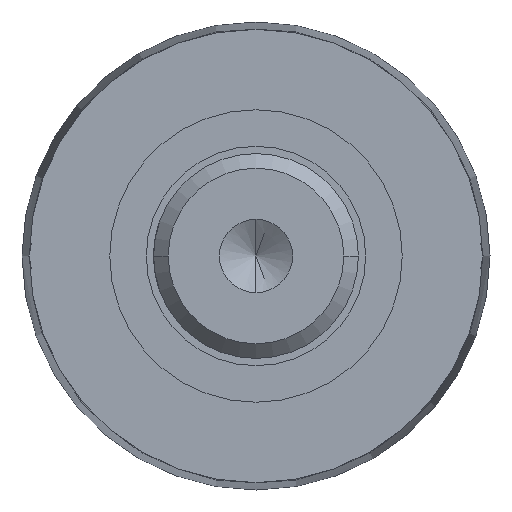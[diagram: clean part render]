
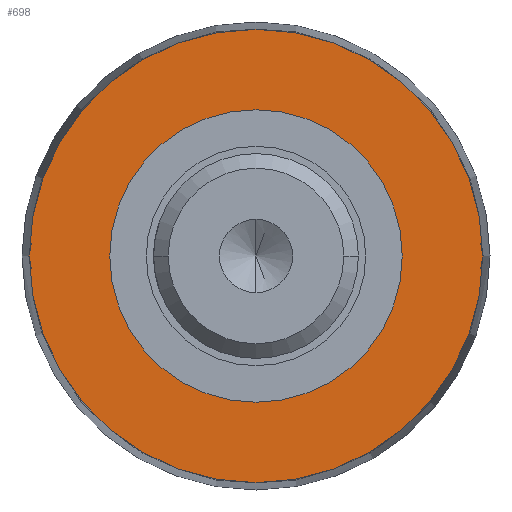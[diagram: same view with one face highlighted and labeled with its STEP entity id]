
A CAD part, left-side view. The second image highlights one B-rep face of the part: STEP entity #698.
In plain terms, the highlighted planar face has unit normal (-1, 0, 0).
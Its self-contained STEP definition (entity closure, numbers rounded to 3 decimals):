
#23 = CARTESIAN_POINT ( 'NONE',  ( -210., -10., 0. ) ) ;
#33 = ORIENTED_EDGE ( 'NONE', *, *, #112, .F. ) ;
#103 = DIRECTION ( 'NONE',  ( 0., 1., 0. ) ) ;
#108 = EDGE_LOOP ( 'NONE', ( #671, #682 ) ) ;
#112 = EDGE_CURVE ( 'NONE', #532, #758, #289, .T. ) ;
#128 = DIRECTION ( 'NONE',  ( 0., 1., 0. ) ) ;
#132 = DIRECTION ( 'NONE',  ( 0., 1., 0. ) ) ;
#199 = CARTESIAN_POINT ( 'NONE',  ( -210., 0., 0. ) ) ;
#228 = FACE_OUTER_BOUND ( 'NONE', #534, .T. ) ;
#233 = EDGE_CURVE ( 'NONE', #758, #532, #404, .T. ) ;
#289 = CIRCLE ( 'NONE', #554, 15.5 ) ;
#319 = CARTESIAN_POINT ( 'NONE',  ( -210., 0., 0. ) ) ;
#370 = CIRCLE ( 'NONE', #981, 10. ) ;
#404 = CIRCLE ( 'NONE', #618, 15.5 ) ;
#441 = CARTESIAN_POINT ( 'NONE',  ( -210., 0., 0. ) ) ;
#459 = AXIS2_PLACEMENT_3D ( 'NONE', #748, #480, #888 ) ;
#480 = DIRECTION ( 'NONE',  ( -1., 0., 0. ) ) ;
#500 = VERTEX_POINT ( 'NONE', #1034 ) ;
#515 = VERTEX_POINT ( 'NONE', #23 ) ;
#532 = VERTEX_POINT ( 'NONE', #589 ) ;
#534 = EDGE_LOOP ( 'NONE', ( #1009, #33 ) ) ;
#538 = DIRECTION ( 'NONE',  ( 0., 1., 0. ) ) ;
#541 = CIRCLE ( 'NONE', #657, 10. ) ;
#554 = AXIS2_PLACEMENT_3D ( 'NONE', #908, #812, #132 ) ;
#582 = PLANE ( 'NONE',  #459 ) ;
#589 = CARTESIAN_POINT ( 'NONE',  ( -210., -15.5, 0. ) ) ;
#601 = CARTESIAN_POINT ( 'NONE',  ( -210., 15.5, 0. ) ) ;
#618 = AXIS2_PLACEMENT_3D ( 'NONE', #199, #783, #103 ) ;
#657 = AXIS2_PLACEMENT_3D ( 'NONE', #441, #1120, #538 ) ;
#671 = ORIENTED_EDGE ( 'NONE', *, *, #839, .T. ) ;
#682 = ORIENTED_EDGE ( 'NONE', *, *, #955, .T. ) ;
#698 = ADVANCED_FACE ( 'NONE', ( #740, #228 ), #582, .T. ) ;
#740 = FACE_BOUND ( 'NONE', #108, .T. ) ;
#748 = CARTESIAN_POINT ( 'NONE',  ( -210., 10., 0. ) ) ;
#758 = VERTEX_POINT ( 'NONE', #601 ) ;
#783 = DIRECTION ( 'NONE',  ( 1., 0., 0. ) ) ;
#812 = DIRECTION ( 'NONE',  ( 1., 0., 0. ) ) ;
#839 = EDGE_CURVE ( 'NONE', #500, #515, #370, .T. ) ;
#888 = DIRECTION ( 'NONE',  ( 0., -1., 0. ) ) ;
#908 = CARTESIAN_POINT ( 'NONE',  ( -210., 0., 0. ) ) ;
#955 = EDGE_CURVE ( 'NONE', #515, #500, #541, .T. ) ;
#981 = AXIS2_PLACEMENT_3D ( 'NONE', #319, #1002, #128 ) ;
#1002 = DIRECTION ( 'NONE',  ( 1., 0., 0. ) ) ;
#1009 = ORIENTED_EDGE ( 'NONE', *, *, #233, .F. ) ;
#1034 = CARTESIAN_POINT ( 'NONE',  ( -210., 10., 0. ) ) ;
#1120 = DIRECTION ( 'NONE',  ( 1., 0., 0. ) ) ;
